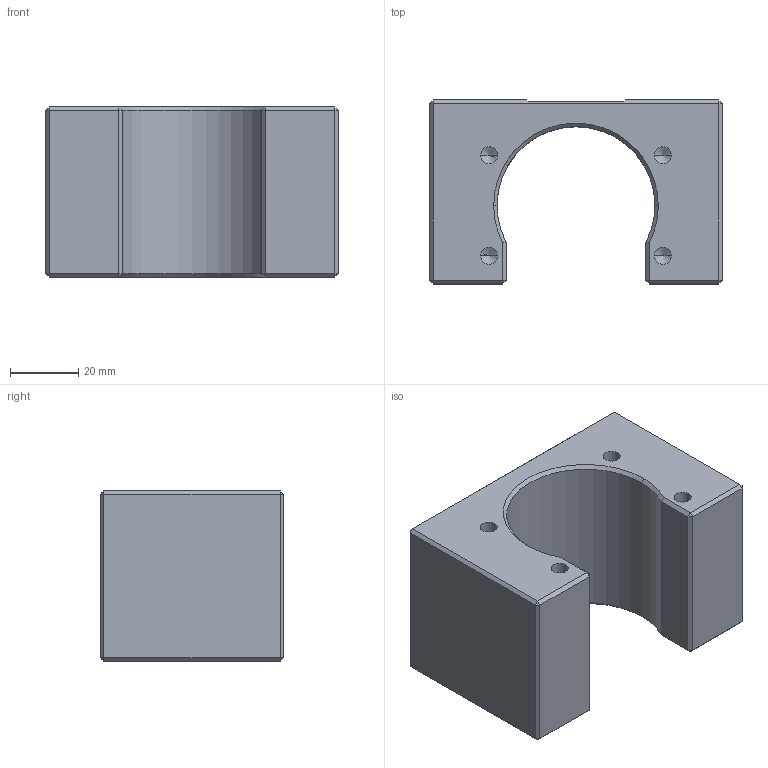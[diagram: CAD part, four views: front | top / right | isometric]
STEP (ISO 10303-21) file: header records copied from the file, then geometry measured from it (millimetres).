
FILE_DESCRIPTION (( 'STEP AP203' ), '1' );
FILE_NAME ('MC2010.STEP', '2008-06-09T03:08:33', ( '' ), ( '' ), 'SwSTEP 2.0', 'SolidWorks 2008', '' );
FILE_SCHEMA (( 'CONFIG_CONTROL_DESIGN' ));
Length unit declared in the file: millimetre
Products named in the file (1): MC2010
Bounding box: 86 x 54 x 50 mm (x, y, z)
Volume: 132334 mm3; surface area: 26629.5 mm2
Topology: 1 solids, 1 shells, 86 faces, 192 edges, 100 vertices
Faces by surface type: plane 45, cone 22, cylinder 19
Entity records: 2269 total; most frequent: DIRECTION 390, CARTESIAN_POINT 375, ORIENTED_EDGE 352, EDGE_CURVE 176, AXIS2_PLACEMENT_3D 131, LINE 128, VECTOR 128, VERTEX_POINT 100
